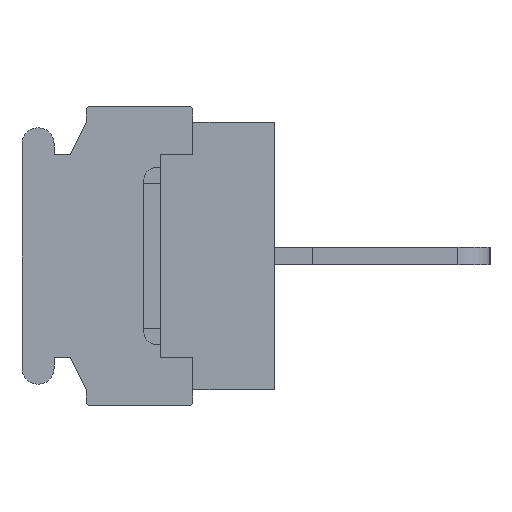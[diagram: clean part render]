
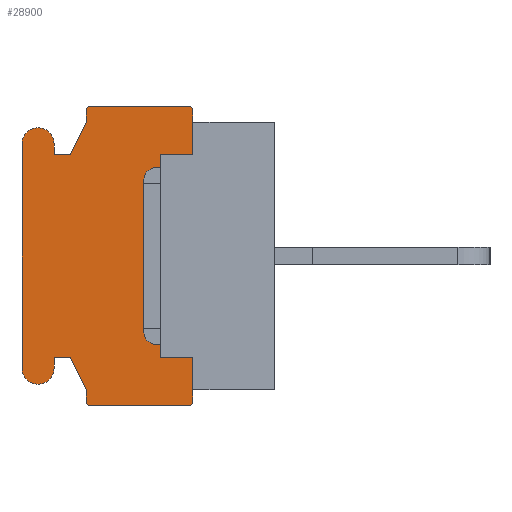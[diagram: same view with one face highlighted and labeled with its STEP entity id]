
A CAD part, left-side view. The second image highlights one B-rep face of the part: STEP entity #28900.
In plain terms, the highlighted planar face has unit normal (-1, 0, 0).
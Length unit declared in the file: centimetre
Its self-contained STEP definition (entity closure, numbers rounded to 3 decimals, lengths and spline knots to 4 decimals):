
#1483=VECTOR('',#31266,1.);
#3610=VECTOR('',#35875,1.);
#3611=VECTOR('',#35876,1.);
#3612=VECTOR('',#35879,1.);
#3613=VECTOR('',#35882,1.);
#3614=VECTOR('',#35883,1.);
#3615=VECTOR('',#35884,1.);
#3616=VECTOR('',#35885,1.);
#3617=VECTOR('',#35888,1.);
#3618=VECTOR('',#35891,1.);
#3619=VECTOR('',#35892,1.);
#3620=VECTOR('',#35893,1.);
#3621=VECTOR('',#35894,1.);
#3622=VECTOR('',#35897,1.);
#3623=VECTOR('',#35900,1.);
#3624=VECTOR('',#35901,1.);
#3625=VECTOR('',#35902,1.);
#3626=VECTOR('',#35903,1.);
#4655=LINE('',#38639,#1483);
#6782=LINE('',#45087,#3610);
#6783=LINE('',#45089,#3611);
#6784=LINE('',#45093,#3612);
#6785=LINE('',#45097,#3613);
#6786=LINE('',#45099,#3614);
#6787=LINE('',#45101,#3615);
#6788=LINE('',#45103,#3616);
#6789=LINE('',#45107,#3617);
#6790=LINE('',#45111,#3618);
#6791=LINE('',#45113,#3619);
#6792=LINE('',#45115,#3620);
#6793=LINE('',#45117,#3621);
#6794=LINE('',#45121,#3622);
#6795=LINE('',#45125,#3623);
#6796=LINE('',#45126,#3624);
#6797=LINE('',#45128,#3625);
#6798=LINE('',#45129,#3626);
#7766=VERTEX_POINT('',#38640);
#7767=VERTEX_POINT('',#38641);
#7880=VERTEX_POINT('',#38951);
#7939=VERTEX_POINT('',#39074);
#9760=VERTEX_POINT('',#45088);
#9761=VERTEX_POINT('',#45090);
#9762=VERTEX_POINT('',#45092);
#9763=VERTEX_POINT('',#45094);
#9764=VERTEX_POINT('',#45096);
#9765=VERTEX_POINT('',#45098);
#9766=VERTEX_POINT('',#45100);
#9767=VERTEX_POINT('',#45102);
#9768=VERTEX_POINT('',#45104);
#9769=VERTEX_POINT('',#45106);
#9770=VERTEX_POINT('',#45108);
#9771=VERTEX_POINT('',#45110);
#9772=VERTEX_POINT('',#45112);
#9773=VERTEX_POINT('',#45114);
#9774=VERTEX_POINT('',#45116);
#9775=VERTEX_POINT('',#45118);
#9776=VERTEX_POINT('',#45120);
#9777=VERTEX_POINT('',#45122);
#9778=VERTEX_POINT('',#45124);
#9779=VERTEX_POINT('',#45127);
#10748=CIRCLE('',#48636,0.02);
#10749=CIRCLE('',#48637,0.02);
#10750=CIRCLE('',#48638,0.075);
#10751=CIRCLE('',#48639,0.075);
#10752=CIRCLE('',#48640,0.02);
#10753=CIRCLE('',#48641,0.02);
#11556=EDGE_CURVE('',#7766,#7767,#4655,.T.);
#14567=EDGE_CURVE('',#9760,#7880,#6782,.T.);
#14568=EDGE_CURVE('',#9761,#7880,#6783,.T.);
#14569=EDGE_CURVE('',#9762,#9761,#10748,.T.);
#14570=EDGE_CURVE('',#9763,#9762,#6784,.T.);
#14571=EDGE_CURVE('',#9764,#9763,#10749,.T.);
#14572=EDGE_CURVE('',#9765,#9764,#6785,.T.);
#14573=EDGE_CURVE('',#9766,#9765,#6786,.T.);
#14574=EDGE_CURVE('',#9767,#9766,#6787,.T.);
#14575=EDGE_CURVE('',#9768,#9767,#6788,.T.);
#14576=EDGE_CURVE('',#9769,#9768,#10750,.T.);
#14577=EDGE_CURVE('',#9770,#9769,#6789,.T.);
#14578=EDGE_CURVE('',#9771,#9770,#10751,.T.);
#14579=EDGE_CURVE('',#9772,#9771,#6790,.T.);
#14580=EDGE_CURVE('',#9773,#9772,#6791,.T.);
#14581=EDGE_CURVE('',#9774,#9773,#6792,.T.);
#14582=EDGE_CURVE('',#9775,#9774,#6793,.T.);
#14583=EDGE_CURVE('',#9776,#9775,#10752,.T.);
#14584=EDGE_CURVE('',#9777,#9776,#6794,.T.);
#14585=EDGE_CURVE('',#9778,#9777,#10753,.T.);
#14586=EDGE_CURVE('',#7939,#9778,#6795,.T.);
#14587=EDGE_CURVE('',#7939,#9779,#6796,.T.);
#14588=EDGE_CURVE('',#9779,#7766,#6797,.T.);
#14589=EDGE_CURVE('',#7767,#9760,#6798,.T.);
#22713=ORIENTED_EDGE('',*,*,#14567,.T.);
#22714=ORIENTED_EDGE('',*,*,#14568,.F.);
#22715=ORIENTED_EDGE('',*,*,#14569,.F.);
#22716=ORIENTED_EDGE('',*,*,#14570,.F.);
#22717=ORIENTED_EDGE('',*,*,#14571,.F.);
#22718=ORIENTED_EDGE('',*,*,#14572,.F.);
#22719=ORIENTED_EDGE('',*,*,#14573,.F.);
#22720=ORIENTED_EDGE('',*,*,#14574,.F.);
#22721=ORIENTED_EDGE('',*,*,#14575,.F.);
#22722=ORIENTED_EDGE('',*,*,#14576,.F.);
#22723=ORIENTED_EDGE('',*,*,#14577,.F.);
#22724=ORIENTED_EDGE('',*,*,#14578,.F.);
#22725=ORIENTED_EDGE('',*,*,#14579,.F.);
#22726=ORIENTED_EDGE('',*,*,#14580,.F.);
#22727=ORIENTED_EDGE('',*,*,#14581,.F.);
#22728=ORIENTED_EDGE('',*,*,#14582,.F.);
#22729=ORIENTED_EDGE('',*,*,#14583,.F.);
#22730=ORIENTED_EDGE('',*,*,#14584,.F.);
#22731=ORIENTED_EDGE('',*,*,#14585,.F.);
#22732=ORIENTED_EDGE('',*,*,#14586,.F.);
#22733=ORIENTED_EDGE('',*,*,#14587,.T.);
#22734=ORIENTED_EDGE('',*,*,#14588,.T.);
#22735=ORIENTED_EDGE('',*,*,#11556,.T.);
#22736=ORIENTED_EDGE('',*,*,#14589,.T.);
#25448=EDGE_LOOP('',(#22713,#22714,#22715,#22716,#22717,#22718,#22719,#22720,
#22721,#22722,#22723,#22724,#22725,#22726,#22727,#22728,#22729,#22730,#22731,
#22732,#22733,#22734,#22735,#22736));
#27258=FACE_BOUND('',#25448,.T.);
#28900=ADVANCED_FACE('',(#27258),#30118,.F.);
#30118=PLANE('',#48635);
#31266=DIRECTION('',(0.,0.,1.));
#35874=DIRECTION('',(1.,0.,0.));
#35875=DIRECTION('',(0.,0.,1.));
#35876=DIRECTION('',(0.,0.,-1.));
#35877=DIRECTION('',(1.,0.,0.));
#35878=DIRECTION('',(0.,0.,-0.02));
#35879=DIRECTION('',(0.,-1.,0.));
#35880=DIRECTION('',(1.,0.,0.));
#35881=DIRECTION('',(0.,0.,-0.02));
#35882=DIRECTION('',(0.,0.,1.));
#35883=DIRECTION('',(0.,-0.447,0.894));
#35884=DIRECTION('',(0.,-1.,0.));
#35885=DIRECTION('',(0.,0.,-1.));
#35886=DIRECTION('',(1.,0.,0.));
#35887=DIRECTION('',(0.,0.,-0.075));
#35888=DIRECTION('',(0.,0.,1.));
#35889=DIRECTION('',(1.,0.,0.));
#35890=DIRECTION('',(0.,0.,-0.075));
#35891=DIRECTION('',(0.,0.,-1.));
#35892=DIRECTION('',(0.,1.,0.));
#35893=DIRECTION('',(0.,0.447,0.894));
#35894=DIRECTION('',(0.,0.,1.));
#35895=DIRECTION('',(1.,0.,0.));
#35896=DIRECTION('',(0.,0.,-0.02));
#35897=DIRECTION('',(0.,1.,0.));
#35898=DIRECTION('',(1.,0.,0.));
#35899=DIRECTION('',(0.,0.,-0.02));
#35900=DIRECTION('',(0.,0.,-1.));
#35901=DIRECTION('',(0.,0.,1.));
#35902=DIRECTION('',(0.,1.,0.));
#35903=DIRECTION('',(0.,-1.,0.));
#38639=CARTESIAN_POINT('',(-0.762,0.53,0.));
#38640=CARTESIAN_POINT('',(-0.762,0.53,-0.475));
#38641=CARTESIAN_POINT('',(-0.762,0.53,0.475));
#38951=CARTESIAN_POINT('',(-0.762,0.38,0.625));
#39074=CARTESIAN_POINT('',(-0.762,0.38,-0.625));
#45086=CARTESIAN_POINT('',(-0.762,0.6059,0.));
#45087=CARTESIAN_POINT('',(-0.762,0.38,0.275));
#45088=CARTESIAN_POINT('',(-0.762,0.38,0.475));
#45089=CARTESIAN_POINT('',(-0.762,0.38,0.68));
#45090=CARTESIAN_POINT('',(-0.762,0.38,0.68));
#45091=CARTESIAN_POINT('',(-0.762,0.4,0.68));
#45092=CARTESIAN_POINT('',(-0.762,0.4,0.7));
#45093=CARTESIAN_POINT('',(-0.762,0.86,0.7));
#45094=CARTESIAN_POINT('',(-0.762,0.86,0.7));
#45095=CARTESIAN_POINT('',(-0.762,0.86,0.68));
#45096=CARTESIAN_POINT('',(-0.762,0.88,0.68));
#45097=CARTESIAN_POINT('',(-0.762,0.88,0.625));
#45098=CARTESIAN_POINT('',(-0.762,0.88,0.625));
#45099=CARTESIAN_POINT('',(-0.762,0.955,0.475));
#45100=CARTESIAN_POINT('',(-0.762,0.955,0.475));
#45101=CARTESIAN_POINT('',(-0.762,1.03,0.475));
#45102=CARTESIAN_POINT('',(-0.762,1.03,0.475));
#45103=CARTESIAN_POINT('',(-0.762,1.03,0.525));
#45104=CARTESIAN_POINT('',(-0.762,1.03,0.525));
#45105=CARTESIAN_POINT('',(-0.762,1.105,0.525));
#45106=CARTESIAN_POINT('',(-0.762,1.18,0.525));
#45107=CARTESIAN_POINT('',(-0.762,1.18,-0.525));
#45108=CARTESIAN_POINT('',(-0.762,1.18,-0.525));
#45109=CARTESIAN_POINT('',(-0.762,1.105,-0.525));
#45110=CARTESIAN_POINT('',(-0.762,1.03,-0.525));
#45111=CARTESIAN_POINT('',(-0.762,1.03,-0.475));
#45112=CARTESIAN_POINT('',(-0.762,1.03,-0.475));
#45113=CARTESIAN_POINT('',(-0.762,0.955,-0.475));
#45114=CARTESIAN_POINT('',(-0.762,0.955,-0.475));
#45115=CARTESIAN_POINT('',(-0.762,0.88,-0.625));
#45116=CARTESIAN_POINT('',(-0.762,0.88,-0.625));
#45117=CARTESIAN_POINT('',(-0.762,0.88,-0.68));
#45118=CARTESIAN_POINT('',(-0.762,0.88,-0.68));
#45119=CARTESIAN_POINT('',(-0.762,0.86,-0.68));
#45120=CARTESIAN_POINT('',(-0.762,0.86,-0.7));
#45121=CARTESIAN_POINT('',(-0.762,0.4,-0.7));
#45122=CARTESIAN_POINT('',(-0.762,0.4,-0.7));
#45123=CARTESIAN_POINT('',(-0.762,0.4,-0.68));
#45124=CARTESIAN_POINT('',(-0.762,0.38,-0.68));
#45125=CARTESIAN_POINT('',(-0.762,0.38,-0.625));
#45126=CARTESIAN_POINT('',(-0.762,0.38,-0.275));
#45127=CARTESIAN_POINT('',(-0.762,0.38,-0.475));
#45128=CARTESIAN_POINT('',(-0.762,0.5304,-0.475));
#45129=CARTESIAN_POINT('',(-0.762,0.5304,0.475));
#48635=AXIS2_PLACEMENT_3D('',#45086,#35874,$);
#48636=AXIS2_PLACEMENT_3D('',#45091,#35877,#35878);
#48637=AXIS2_PLACEMENT_3D('',#45095,#35880,#35881);
#48638=AXIS2_PLACEMENT_3D('',#45105,#35886,#35887);
#48639=AXIS2_PLACEMENT_3D('',#45109,#35889,#35890);
#48640=AXIS2_PLACEMENT_3D('',#45119,#35895,#35896);
#48641=AXIS2_PLACEMENT_3D('',#45123,#35898,#35899);
